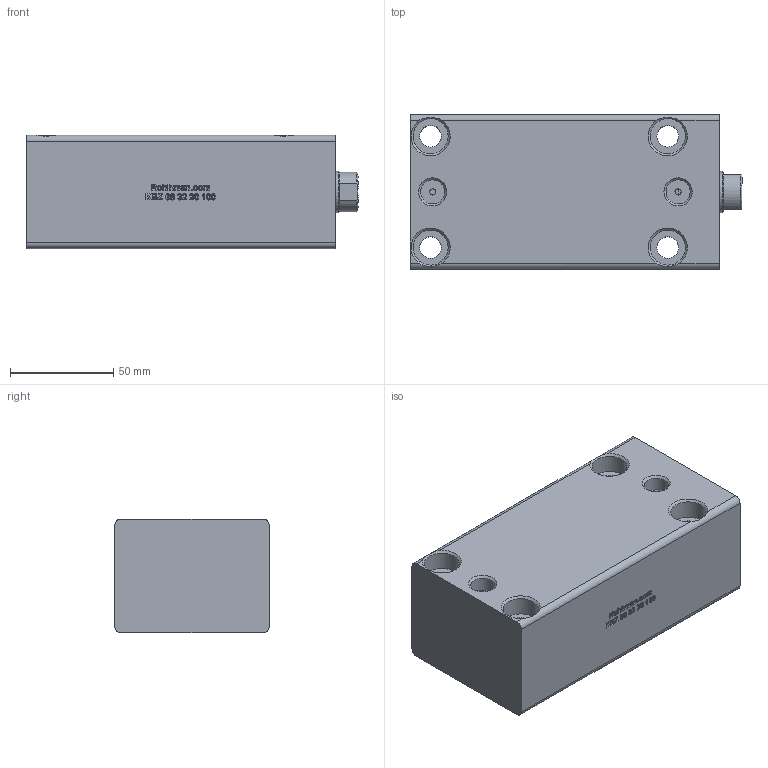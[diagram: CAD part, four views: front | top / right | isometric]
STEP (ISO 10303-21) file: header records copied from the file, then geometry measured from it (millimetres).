
FILE_DESCRIPTION(/* description */ (''),/* implementation_level */ '2;1');
FILE_NAME(/* name */ 'KBZ_08_32_20_100_WEB.step',/* time_stamp */ '2023-09-04T09:04:10+03:00',/* author */ (''),/* organization */ (''),/* preprocessor_version */ 'ST-DEVELOPER v20',/* originating_system */ 'Autodesk Translation Framework v12.9.0.99',/* authorisation */ '');
FILE_SCHEMA (('AUTOMOTIVE_DESIGN { 1 0 10303 214 3 1 1 }'));
Length unit declared in the file: millimetre
Products named in the file (7): KBZ_08_32_20_100_TRACE_PART; KAPAK; KAPAK_1; GÖVDE; GÖVDE_1; Ø20_MİL; Ø20 mil
Assembly tree (6 placements, depth 3):
  KBZ_08_32_20_100_TRACE_PART
    KAPAK
      KAPAK_1
    GÖVDE
      GÖVDE_1
    Ø20_MİL
      Ø20 mil
Bounding box: 161 x 75 x 55 mm (x, y, z)
Volume: 561044.6 mm3; surface area: 71197.9 mm2
Topology: 3 solids, 3 shells, 590 faces, 1603 edges, 1062 vertices
Faces by surface type: bspline 366, plane 178, cylinder 28, cone 18
Full cylindrical faces by diameter (mm): 3 x4, 10.274 x1, 10.5 x4, 11.668 x2, 17 x4, 20 x1, 20.5 x1, 32 x1, 36 x2, 45 x2
Entity records: 22212 total; most frequent: CARTESIAN_POINT 9588, ORIENTED_EDGE 3206, EDGE_CURVE 1603, DIRECTION 1417, VERTEX_POINT 1062, LINE 779, VECTOR 779, B_SPLINE_CURVE_WITH_KNOTS 739
